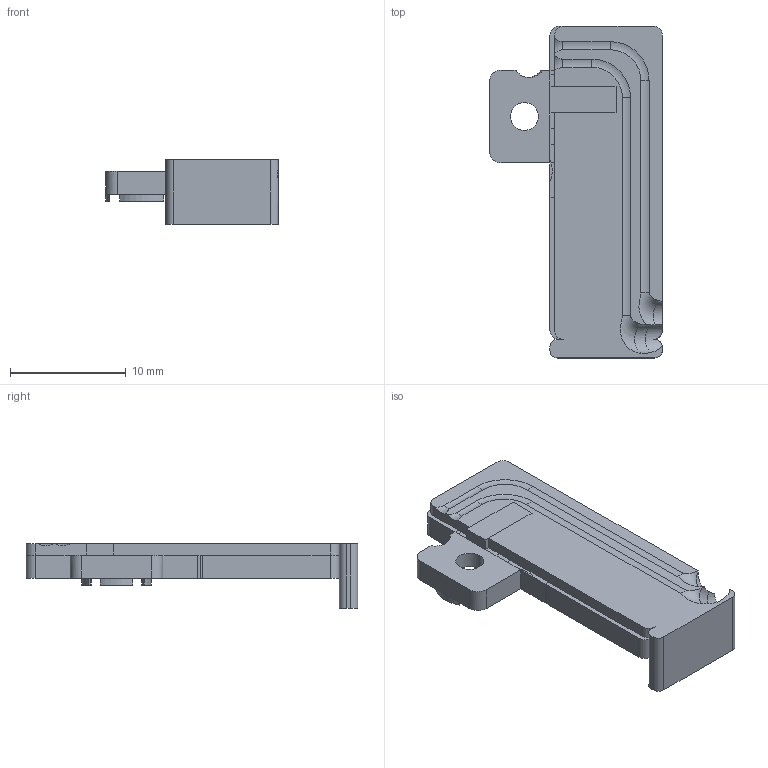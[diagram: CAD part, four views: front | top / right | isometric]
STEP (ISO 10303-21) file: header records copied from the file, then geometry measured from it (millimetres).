
FILE_DESCRIPTION(('Open CASCADE Model'),'2;1');
FILE_NAME('Open CASCADE Shape Model','2026-09-16T15:34:22',('Author'),( 'Open CASCADE'),'Open CASCADE STEP processor 7.7','Open CASCADE 7.7' ,'Unknown');
FILE_SCHEMA(('AUTOMOTIVE_DESIGN { 1 0 10303 214 1 1 1 1 }'));
Length unit declared in the file: millimetre
Products named in the file (1): COMPOUND
Bounding box: 14.9 x 28.62 x 5.6 mm (x, y, z)
Volume: 907.6 mm3; surface area: 967.3 mm2
Topology: 1 solids, 1 shells, 99 faces, 294 edges, 197 vertices
Faces by surface type: plane 61, cylinder 30, torus 8
Full cylindrical faces by diameter (mm): 2.4 x1
Entity records: 9139 total; most frequent: CARTESIAN_POINT 3560, DIRECTION 968, ORIENTED_EDGE 588, PCURVE 588, DEFINITIONAL_REPRESENTATION 588, LINE 527, VECTOR 527, EDGE_CURVE 294
